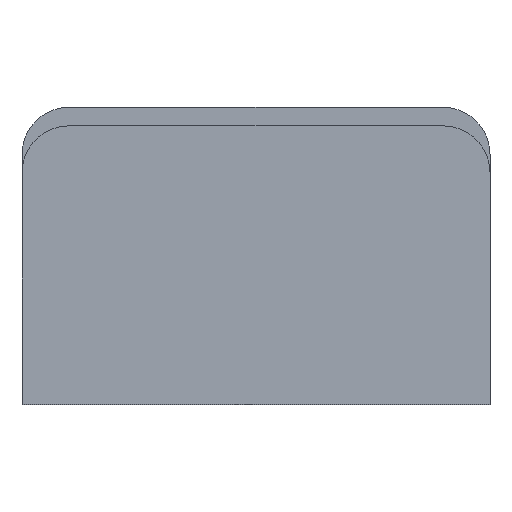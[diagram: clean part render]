
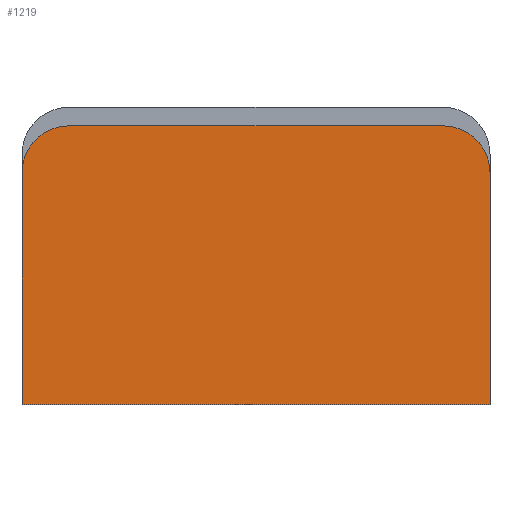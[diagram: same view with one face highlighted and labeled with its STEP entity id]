
A CAD part, top view. The second image highlights one B-rep face of the part: STEP entity #1219.
In plain terms, the highlighted planar face has unit normal (0, 0, 1).
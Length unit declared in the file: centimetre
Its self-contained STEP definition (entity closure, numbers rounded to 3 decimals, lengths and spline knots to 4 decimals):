
#146=PLANE('',#1364);
#156=VECTOR('',#1383,1.);
#198=VECTOR('',#1559,1.);
#201=VECTOR('',#1567,1.);
#234=VECTOR('',#1704,1.);
#244=LINE('',#1794,#156);
#286=LINE('',#2033,#198);
#289=LINE('',#2041,#201);
#322=LINE('',#2161,#234);
#336=VERTEX_POINT('',#1793);
#337=VERTEX_POINT('',#1795);
#397=VERTEX_POINT('',#2028);
#398=VERTEX_POINT('',#2032);
#399=VERTEX_POINT('',#2036);
#400=VERTEX_POINT('',#2040);
#473=CIRCLE('',#1298,2.);
#474=CIRCLE('',#1301,2.);
#515=EDGE_CURVE('',#337,#336,#244,.T.);
#604=EDGE_CURVE('',#397,#336,#473,.T.);
#606=EDGE_CURVE('',#398,#397,#286,.T.);
#608=EDGE_CURVE('',#399,#398,#474,.T.);
#610=EDGE_CURVE('',#400,#399,#289,.T.);
#670=EDGE_CURVE('',#400,#337,#322,.T.);
#1005=ORIENTED_EDGE('',*,*,#604,.F.);
#1006=ORIENTED_EDGE('',*,*,#606,.F.);
#1007=ORIENTED_EDGE('',*,*,#608,.F.);
#1008=ORIENTED_EDGE('',*,*,#610,.F.);
#1009=ORIENTED_EDGE('',*,*,#670,.T.);
#1010=ORIENTED_EDGE('',*,*,#515,.T.);
#1080=EDGE_LOOP('',(#1005,#1006,#1007,#1008,#1009,#1010));
#1150=FACE_BOUND('',#1080,.T.);
#1219=ADVANCED_FACE('',(#1150),#146,.T.);
#1298=AXIS2_PLACEMENT_3D('',#2029,#1555,#1556);
#1301=AXIS2_PLACEMENT_3D('',#2037,#1563,#1564);
#1364=AXIS2_PLACEMENT_3D('',#2162,#1705,$);
#1383=DIRECTION('',(0.,1.,0.));
#1555=DIRECTION('',(0.,0.,-1.));
#1556=DIRECTION('',(1.414,1.414,0.));
#1559=DIRECTION('',(1.,0.,0.));
#1563=DIRECTION('',(0.,0.,-1.));
#1564=DIRECTION('',(-1.414,1.414,0.));
#1567=DIRECTION('',(0.,1.,0.));
#1704=DIRECTION('',(1.,0.,0.));
#1705=DIRECTION('',(0.,0.,1.));
#1793=CARTESIAN_POINT('',(10.,9.9,0.));
#1794=CARTESIAN_POINT('',(10.,0.,0.));
#1795=CARTESIAN_POINT('',(10.,0.,0.));
#2028=CARTESIAN_POINT('',(8.,11.9,0.));
#2029=CARTESIAN_POINT('',(8.,9.9,0.));
#2032=CARTESIAN_POINT('',(-8.,11.9,0.));
#2033=CARTESIAN_POINT('',(-10.,11.9,0.));
#2036=CARTESIAN_POINT('',(-10.,9.9,0.));
#2037=CARTESIAN_POINT('',(-8.,9.9,0.));
#2040=CARTESIAN_POINT('',(-10.,0.,0.));
#2041=CARTESIAN_POINT('',(-10.,0.,0.));
#2161=CARTESIAN_POINT('',(-10.,0.,0.));
#2162=CARTESIAN_POINT('',(-10.,5.95,0.));
